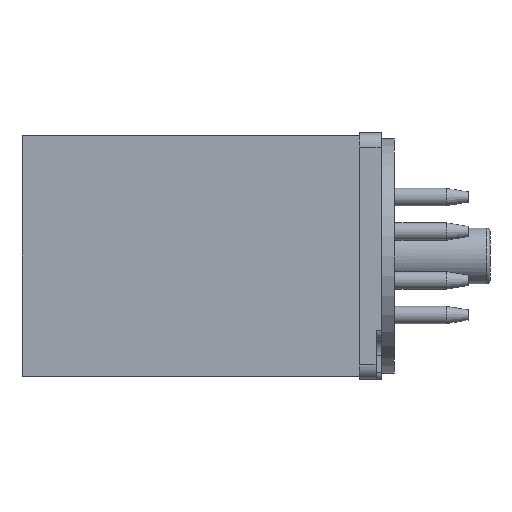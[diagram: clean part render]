
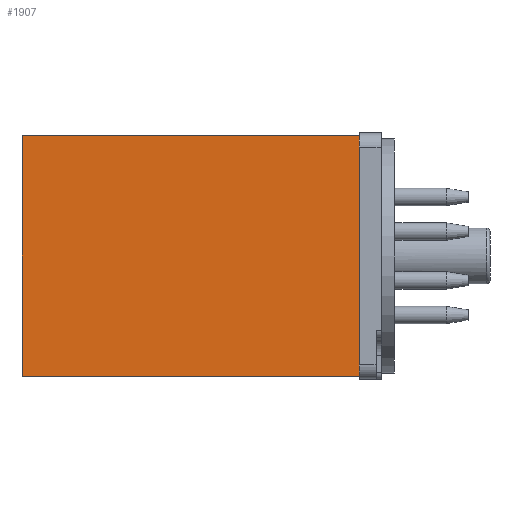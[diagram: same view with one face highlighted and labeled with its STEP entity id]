
A CAD part, left-side view. The second image highlights one B-rep face of the part: STEP entity #1907.
In plain terms, the highlighted planar face has unit normal (-1, 0, 0).
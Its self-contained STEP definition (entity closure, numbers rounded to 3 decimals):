
#126=PLANE('',#2115);
#278=LINE('',#3219,#436);
#279=LINE('',#3221,#437);
#280=LINE('',#3223,#438);
#281=LINE('',#3224,#439);
#436=VECTOR('',#2672,33.2);
#437=VECTOR('',#2673,46.5);
#438=VECTOR('',#2674,33.2);
#439=VECTOR('',#2675,46.5);
#622=FACE_OUTER_BOUND('',#766,.T.);
#766=EDGE_LOOP('',(#1766,#1767,#1768,#1769));
#1038=VERTEX_POINT('',#3217);
#1039=VERTEX_POINT('',#3218);
#1040=VERTEX_POINT('',#3220);
#1041=VERTEX_POINT('',#3222);
#1286=EDGE_CURVE('',#1038,#1039,#278,.T.);
#1287=EDGE_CURVE('',#1039,#1040,#279,.T.);
#1288=EDGE_CURVE('',#1041,#1040,#280,.T.);
#1289=EDGE_CURVE('',#1038,#1041,#281,.T.);
#1766=ORIENTED_EDGE('',*,*,#1286,.T.);
#1767=ORIENTED_EDGE('',*,*,#1287,.T.);
#1768=ORIENTED_EDGE('',*,*,#1288,.F.);
#1769=ORIENTED_EDGE('',*,*,#1289,.F.);
#1907=ADVANCED_FACE('',(#622),#126,.T.);
#2115=AXIS2_PLACEMENT_3D('',#3216,#2670,#2671);
#2670=DIRECTION('center_axis',(-1.,0.,0.));
#2671=DIRECTION('ref_axis',(0.,0.,1.));
#2672=DIRECTION('',(0.,0.,1.));
#2673=DIRECTION('',(0.,1.,0.));
#2674=DIRECTION('',(0.,0.,1.));
#2675=DIRECTION('',(0.,1.,0.));
#3216=CARTESIAN_POINT('Origin',(-16.6,0.,-16.6));
#3217=CARTESIAN_POINT('',(-16.6,0.,-16.6));
#3218=CARTESIAN_POINT('',(-16.6,0.,16.6));
#3219=CARTESIAN_POINT('',(-16.6,0.,-16.6));
#3220=CARTESIAN_POINT('',(-16.6,46.5,16.6));
#3221=CARTESIAN_POINT('',(-16.6,0.,16.6));
#3222=CARTESIAN_POINT('',(-16.6,46.5,-16.6));
#3223=CARTESIAN_POINT('',(-16.6,46.5,-16.6));
#3224=CARTESIAN_POINT('',(-16.6,0.,-16.6));
